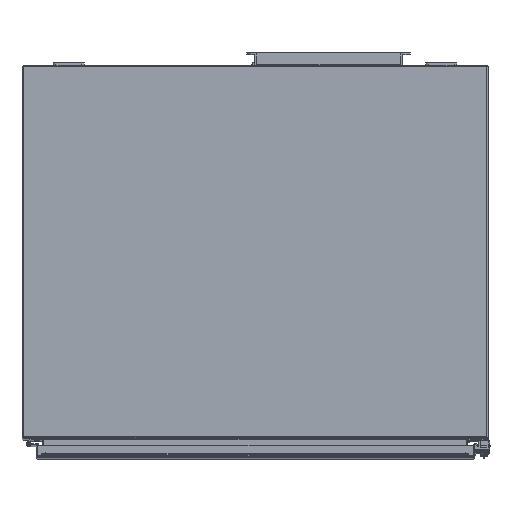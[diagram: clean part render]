
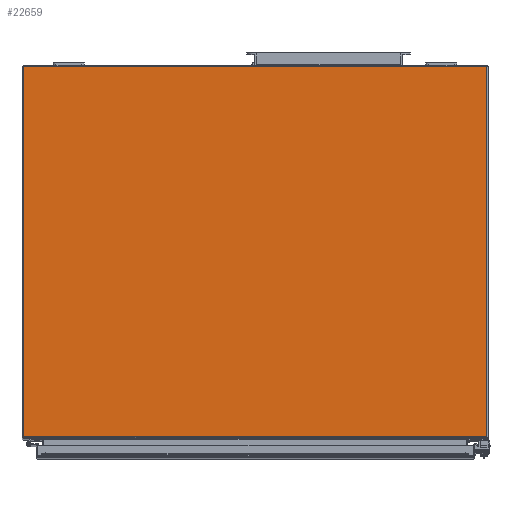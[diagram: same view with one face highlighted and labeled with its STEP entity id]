
A CAD part, top view. The second image highlights one B-rep face of the part: STEP entity #22659.
In plain terms, the highlighted planar face has unit normal (0, 0, 1) as drawn and (0, -1, 0) by its records, which use the part's own axes.
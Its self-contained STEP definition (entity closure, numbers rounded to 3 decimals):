
#2806=LINE('',#40393,#4851);
#2808=LINE('',#40397,#4853);
#2812=LINE('',#40406,#4857);
#2815=LINE('',#40411,#4860);
#4851=VECTOR('',#30552,1000.);
#4853=VECTOR('',#30558,1000.);
#4857=VECTOR('',#30564,1000.);
#4860=VECTOR('',#30571,1000.);
#11445=ORIENTED_EDGE('',*,*,#14930,.T.);
#11446=ORIENTED_EDGE('',*,*,#14921,.T.);
#11447=ORIENTED_EDGE('',*,*,#14927,.T.);
#11448=ORIENTED_EDGE('',*,*,#14923,.T.);
#14921=EDGE_CURVE('',#17132,#17135,#2806,.T.);
#14923=EDGE_CURVE('',#17136,#17137,#2808,.T.);
#14927=EDGE_CURVE('',#17135,#17136,#2812,.T.);
#14930=EDGE_CURVE('',#17137,#17132,#2815,.T.);
#17132=VERTEX_POINT('',#40327);
#17135=VERTEX_POINT('',#40386);
#17136=VERTEX_POINT('',#40398);
#17137=VERTEX_POINT('',#40399);
#19332=EDGE_LOOP('',(#11445,#11446,#11447,#11448));
#20701=FACE_BOUND('',#19332,.T.);
#21484=PLANE('',#24783);
#22659=ADVANCED_FACE('',(#20701),#21484,.T.);
#24783=AXIS2_PLACEMENT_3D('',#40412,#30572,#30573);
#30552=DIRECTION('',(-1.,0.,0.));
#30558=DIRECTION('',(1.,0.,0.));
#30564=DIRECTION('',(0.,0.,-1.));
#30571=DIRECTION('',(0.,0.,1.));
#30572=DIRECTION('',(0.,-1.,0.));
#30573=DIRECTION('',(0.,0.,-1.));
#40327=CARTESIAN_POINT('',(379.171,0.,302.057));
#40386=CARTESIAN_POINT('',(-379.171,0.,302.057));
#40393=CARTESIAN_POINT('',(379.171,0.,302.057));
#40397=CARTESIAN_POINT('',(-379.171,0.,-302.971));
#40398=CARTESIAN_POINT('',(-379.171,0.,-302.971));
#40399=CARTESIAN_POINT('',(379.171,0.,-302.971));
#40406=CARTESIAN_POINT('',(-379.171,0.,302.971));
#40411=CARTESIAN_POINT('',(379.171,0.,-302.971));
#40412=CARTESIAN_POINT('',(-379.171,0.,-302.971));
